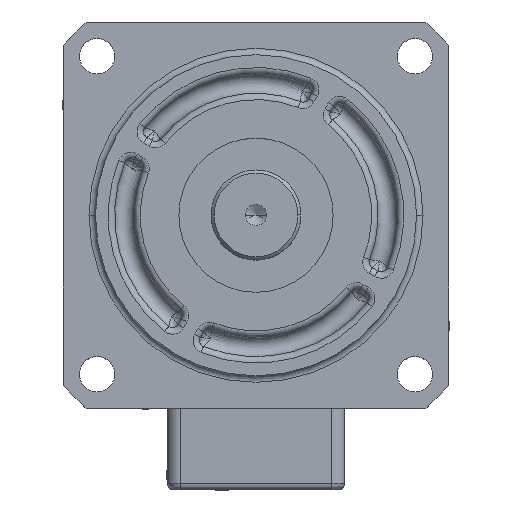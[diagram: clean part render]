
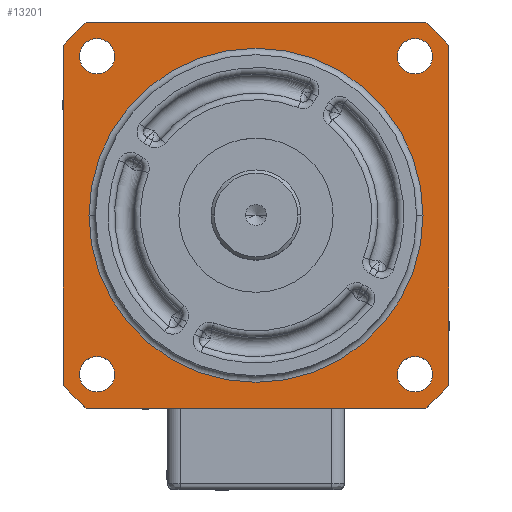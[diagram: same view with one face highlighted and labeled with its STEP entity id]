
A CAD part, top view. The second image highlights one B-rep face of the part: STEP entity #13201.
In plain terms, the highlighted planar face has unit normal (0, 0, 1).
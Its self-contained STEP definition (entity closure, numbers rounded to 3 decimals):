
#410=DIRECTION('',(1.,0.,0.));
#411=VECTOR('',#410,52.915);
#412=CARTESIAN_POINT('',(-26.458,-30.,30.3));
#413=LINE('',#412,#411);
#520=DIRECTION('',(0.,-1.,0.));
#521=VECTOR('',#520,52.915);
#522=CARTESIAN_POINT('',(-30.,26.458,30.3));
#523=LINE('',#522,#521);
#908=DIRECTION('',(-1.,0.,0.));
#909=VECTOR('',#908,52.915);
#910=CARTESIAN_POINT('',(26.458,30.,30.3));
#911=LINE('',#910,#909);
#1310=DIRECTION('',(0.,1.,0.));
#1311=VECTOR('',#1310,52.915);
#1312=CARTESIAN_POINT('',(30.,-26.458,30.3));
#1313=LINE('',#1312,#1311);
#1797=CARTESIAN_POINT('',(0.,0.,30.3));
#1798=DIRECTION('',(0.,0.,1.));
#1799=DIRECTION('',(0.661,-0.75,0.));
#1800=AXIS2_PLACEMENT_3D('',#1797,#1798,#1799);
#1802=CARTESIAN_POINT('',(24.749,-24.749,30.3));
#1803=DIRECTION('',(0.,0.,-1.));
#1804=DIRECTION('',(-1.,0.,0.));
#1805=AXIS2_PLACEMENT_3D('',#1802,#1803,#1804);
#1807=CARTESIAN_POINT('',(24.749,-24.749,30.3));
#1808=DIRECTION('',(0.,0.,-1.));
#1809=DIRECTION('',(1.,0.,0.));
#1810=AXIS2_PLACEMENT_3D('',#1807,#1808,#1809);
#1812=CARTESIAN_POINT('',(-24.749,-24.749,30.3));
#1813=DIRECTION('',(0.,0.,-1.));
#1814=DIRECTION('',(0.,1.,0.));
#1815=AXIS2_PLACEMENT_3D('',#1812,#1813,#1814);
#1817=CARTESIAN_POINT('',(-24.749,-24.749,30.3));
#1818=DIRECTION('',(0.,0.,-1.));
#1819=DIRECTION('',(0.,-1.,0.));
#1820=AXIS2_PLACEMENT_3D('',#1817,#1818,#1819);
#1822=CARTESIAN_POINT('',(-24.749,24.749,30.3));
#1823=DIRECTION('',(0.,0.,-1.));
#1824=DIRECTION('',(1.,0.,0.));
#1825=AXIS2_PLACEMENT_3D('',#1822,#1823,#1824);
#1827=CARTESIAN_POINT('',(-24.749,24.749,30.3));
#1828=DIRECTION('',(0.,0.,-1.));
#1829=DIRECTION('',(-1.,0.,0.));
#1830=AXIS2_PLACEMENT_3D('',#1827,#1828,#1829);
#1832=CARTESIAN_POINT('',(24.749,24.749,30.3));
#1833=DIRECTION('',(0.,0.,-1.));
#1834=DIRECTION('',(0.,-1.,0.));
#1835=AXIS2_PLACEMENT_3D('',#1832,#1833,#1834);
#1837=CARTESIAN_POINT('',(24.749,24.749,30.3));
#1838=DIRECTION('',(0.,0.,-1.));
#1839=DIRECTION('',(0.,1.,0.));
#1840=AXIS2_PLACEMENT_3D('',#1837,#1838,#1839);
#1842=CARTESIAN_POINT('',(0.,0.,30.3));
#1843=DIRECTION('',(0.,0.,1.));
#1844=DIRECTION('',(-1.,0.,0.));
#1845=AXIS2_PLACEMENT_3D('',#1842,#1843,#1844);
#1847=CARTESIAN_POINT('',(0.,0.,30.3));
#1848=DIRECTION('',(0.,0.,1.));
#1849=DIRECTION('',(1.,0.,0.));
#1850=AXIS2_PLACEMENT_3D('',#1847,#1848,#1849);
#1857=CARTESIAN_POINT('',(0.,0.,30.3));
#1858=DIRECTION('',(0.,0.,1.));
#1859=DIRECTION('',(-0.661,0.75,0.));
#1860=AXIS2_PLACEMENT_3D('',#1857,#1858,#1859);
#2101=CARTESIAN_POINT('',(0.,0.,30.3));
#2102=DIRECTION('',(0.,0.,1.));
#2103=DIRECTION('',(0.75,0.661,0.));
#2104=AXIS2_PLACEMENT_3D('',#2101,#2102,#2103);
#2355=CARTESIAN_POINT('',(0.,0.,30.3));
#2356=DIRECTION('',(0.,0.,1.));
#2357=DIRECTION('',(-0.75,-0.661,0.));
#2358=AXIS2_PLACEMENT_3D('',#2355,#2356,#2357);
#8872=CARTESIAN_POINT('',(-30.,26.458,30.3));
#8873=CARTESIAN_POINT('',(-30.,-26.458,30.3));
#8874=VERTEX_POINT('',#8872);
#8875=VERTEX_POINT('',#8873);
#8876=CARTESIAN_POINT('',(-26.458,-30.,30.3));
#8877=CARTESIAN_POINT('',(26.458,-30.,30.3));
#8878=VERTEX_POINT('',#8876);
#8879=VERTEX_POINT('',#8877);
#8880=CARTESIAN_POINT('',(30.,-26.458,30.3));
#8881=CARTESIAN_POINT('',(30.,26.458,30.3));
#8882=VERTEX_POINT('',#8880);
#8883=VERTEX_POINT('',#8881);
#8884=CARTESIAN_POINT('',(26.458,30.,30.3));
#8885=CARTESIAN_POINT('',(-26.458,30.,30.3));
#8886=VERTEX_POINT('',#8884);
#8887=VERTEX_POINT('',#8885);
#8912=CARTESIAN_POINT('',(21.999,-24.749,30.3));
#8913=CARTESIAN_POINT('',(27.499,-24.749,30.3));
#8914=VERTEX_POINT('',#8912);
#8915=VERTEX_POINT('',#8913);
#8920=CARTESIAN_POINT('',(-24.749,-21.999,30.3));
#8921=CARTESIAN_POINT('',(-24.749,-27.499,30.3));
#8922=VERTEX_POINT('',#8920);
#8923=VERTEX_POINT('',#8921);
#8928=CARTESIAN_POINT('',(-21.999,24.749,30.3));
#8929=CARTESIAN_POINT('',(-27.499,24.749,30.3));
#8930=VERTEX_POINT('',#8928);
#8931=VERTEX_POINT('',#8929);
#8936=CARTESIAN_POINT('',(24.749,21.999,30.3));
#8937=CARTESIAN_POINT('',(24.749,27.499,30.3));
#8938=VERTEX_POINT('',#8936);
#8939=VERTEX_POINT('',#8937);
#9214=CARTESIAN_POINT('',(-26.,0.,30.3));
#9215=CARTESIAN_POINT('',(26.,0.,30.3));
#9216=VERTEX_POINT('',#9214);
#9217=VERTEX_POINT('',#9215);
#13153=CARTESIAN_POINT('',(0.,0.,30.3));
#13154=DIRECTION('',(0.,0.,1.));
#13155=DIRECTION('',(1.,0.,0.));
#13156=AXIS2_PLACEMENT_3D('',#13153,#13154,#13155);
#13157=PLANE('',#13156);
#13158=ORIENTED_EDGE('',*,*,#11410,.F.);
#13160=ORIENTED_EDGE('',*,*,#13159,.F.);
#13161=ORIENTED_EDGE('',*,*,#11976,.F.);
#13163=ORIENTED_EDGE('',*,*,#13162,.F.);
#13164=ORIENTED_EDGE('',*,*,#12562,.F.);
#13165=ORIENTED_EDGE('',*,*,#13147,.F.);
#13166=ORIENTED_EDGE('',*,*,#11268,.F.);
#13168=ORIENTED_EDGE('',*,*,#13167,.F.);
#13169=EDGE_LOOP('',(#13158,#13160,#13161,#13163,#13164,#13165,#13166,#13168));
#13170=FACE_OUTER_BOUND('',#13169,.F.);
#13172=ORIENTED_EDGE('',*,*,#13171,.F.);
#13174=ORIENTED_EDGE('',*,*,#13173,.F.);
#13175=EDGE_LOOP('',(#13172,#13174));
#13176=FACE_BOUND('',#13175,.F.);
#13178=ORIENTED_EDGE('',*,*,#13177,.F.);
#13180=ORIENTED_EDGE('',*,*,#13179,.F.);
#13181=EDGE_LOOP('',(#13178,#13180));
#13182=FACE_BOUND('',#13181,.F.);
#13184=ORIENTED_EDGE('',*,*,#13183,.F.);
#13186=ORIENTED_EDGE('',*,*,#13185,.F.);
#13187=EDGE_LOOP('',(#13184,#13186));
#13188=FACE_BOUND('',#13187,.F.);
#13190=ORIENTED_EDGE('',*,*,#13189,.F.);
#13192=ORIENTED_EDGE('',*,*,#13191,.F.);
#13193=EDGE_LOOP('',(#13190,#13192));
#13194=FACE_BOUND('',#13193,.F.);
#13196=ORIENTED_EDGE('',*,*,#13195,.T.);
#13198=ORIENTED_EDGE('',*,*,#13197,.T.);
#13199=EDGE_LOOP('',(#13196,#13198));
#13200=FACE_BOUND('',#13199,.F.);
#1801=CIRCLE('',#1800,40.);
#1806=CIRCLE('',#1805,2.75);
#1811=CIRCLE('',#1810,2.75);
#1816=CIRCLE('',#1815,2.75);
#1821=CIRCLE('',#1820,2.75);
#1826=CIRCLE('',#1825,2.75);
#1831=CIRCLE('',#1830,2.75);
#1836=CIRCLE('',#1835,2.75);
#1841=CIRCLE('',#1840,2.75);
#1846=CIRCLE('',#1845,26.);
#1851=CIRCLE('',#1850,26.);
#1861=CIRCLE('',#1860,40.);
#2105=CIRCLE('',#2104,40.);
#2359=CIRCLE('',#2358,40.);
#11268=EDGE_CURVE('',#8878,#8879,#413,.T.);
#11410=EDGE_CURVE('',#8874,#8875,#523,.T.);
#11976=EDGE_CURVE('',#8886,#8887,#911,.T.);
#12562=EDGE_CURVE('',#8882,#8883,#1313,.T.);
#13147=EDGE_CURVE('',#8879,#8882,#1801,.T.);
#13159=EDGE_CURVE('',#8887,#8874,#1861,.T.);
#13162=EDGE_CURVE('',#8883,#8886,#2105,.T.);
#13167=EDGE_CURVE('',#8875,#8878,#2359,.T.);
#13171=EDGE_CURVE('',#8914,#8915,#1806,.T.);
#13173=EDGE_CURVE('',#8915,#8914,#1811,.T.);
#13177=EDGE_CURVE('',#8922,#8923,#1816,.T.);
#13179=EDGE_CURVE('',#8923,#8922,#1821,.T.);
#13183=EDGE_CURVE('',#8930,#8931,#1826,.T.);
#13185=EDGE_CURVE('',#8931,#8930,#1831,.T.);
#13189=EDGE_CURVE('',#8938,#8939,#1836,.T.);
#13191=EDGE_CURVE('',#8939,#8938,#1841,.T.);
#13195=EDGE_CURVE('',#9216,#9217,#1846,.T.);
#13197=EDGE_CURVE('',#9217,#9216,#1851,.T.);
#13201=ADVANCED_FACE('',(#13170,#13176,#13182,#13188,#13194,#13200),#13157,.T.);
